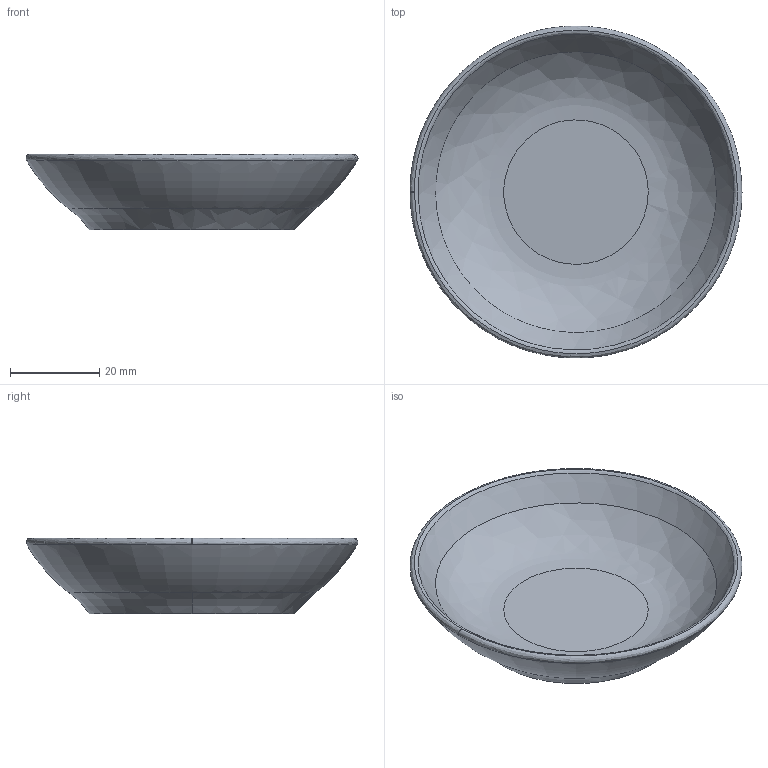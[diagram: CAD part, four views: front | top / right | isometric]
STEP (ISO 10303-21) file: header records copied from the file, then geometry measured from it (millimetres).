
FILE_DESCRIPTION(/* description */ (''),/* implementation_level */ '2;1');
FILE_NAME(/* name */ 'Ash_Bowl.step',/* time_stamp */ '2026-05-27T10:58:33+02:00',/* author */ (''),/* organization */ (''),/* preprocessor_version */ 'ST-DEVELOPER v20.1',/* originating_system */ 'Autodesk Translation Framework v15.8.0.0',/* authorisation */ '');
FILE_SCHEMA (('AUTOMOTIVE_DESIGN { 1 0 10303 214 3 1 1 }'));
Length unit declared in the file: millimetre
Products named in the file (1): Sling_Ashdrop
Bounding box: 74.45 x 74.42 x 17 mm (x, y, z)
Volume: 15492.3 mm3; surface area: 11306.9 mm2
Topology: 1 solids, 1 shells, 10 faces, 22 edges, 14 vertices
Faces by surface type: bspline 8, plane 2
Entity records: 1506 total; most frequent: CARTESIAN_POINT 1303, ORIENTED_EDGE 44, EDGE_CURVE 22, DIRECTION 18, B_SPLINE_CURVE_WITH_KNOTS 15, VERTEX_POINT 14, FACE_OUTER_BOUND 10, EDGE_LOOP 10
